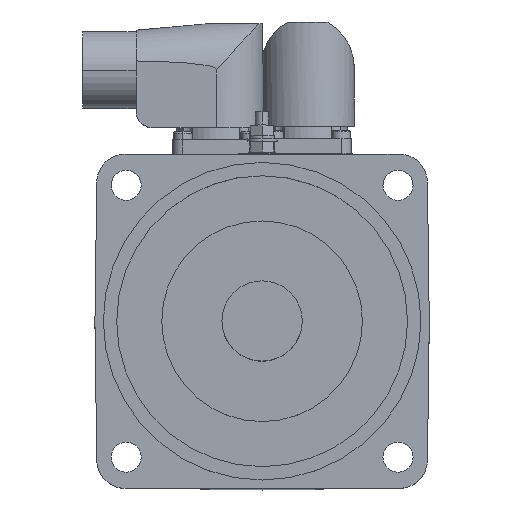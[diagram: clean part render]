
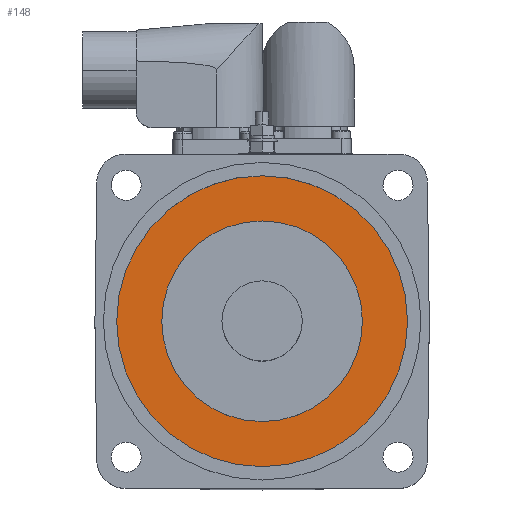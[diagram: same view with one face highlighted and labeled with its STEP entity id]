
A CAD part, top view. The second image highlights one B-rep face of the part: STEP entity #148.
In plain terms, the highlighted planar face has unit normal (0, 0, 1).
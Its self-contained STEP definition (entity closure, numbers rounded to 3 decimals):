
#148 = ADVANCED_FACE ( 'NONE', ( #7662, #7667 ), #5026, .T. ) ;
#856 = ORIENTED_EDGE ( 'NONE', *, *, #3601, .T. ) ;
#857 = ORIENTED_EDGE ( 'NONE', *, *, #3433, .T. ) ;
#858 = ORIENTED_EDGE ( 'NONE', *, *, #3437, .F. ) ;
#859 = ORIENTED_EDGE ( 'NONE', *, *, #3595, .F. ) ;
#1128 = EDGE_LOOP ( 'NONE', ( #856, #857 ) ) ;
#1132 = EDGE_LOOP ( 'NONE', ( #858, #859 ) ) ;
#3433 = EDGE_CURVE ( 'NONE', #6169, #6170, #11213, .T. ) ;
#3437 = EDGE_CURVE ( 'NONE', #6173, #6174, #11218, .T. ) ;
#3595 = EDGE_CURVE ( 'NONE', #6174, #6173, #11466, .T. ) ;
#3601 = EDGE_CURVE ( 'NONE', #6170, #6169, #11475, .T. ) ;
#3766 = AXIS2_PLACEMENT_3D ( 'NONE', #5025, #5027, #5028 ) ;
#4181 = AXIS2_PLACEMENT_3D ( 'NONE', #10006, #10007, #10008 ) ;
#4184 = AXIS2_PLACEMENT_3D ( 'NONE', #9995, #9997, #9998 ) ;
#4253 = AXIS2_PLACEMENT_3D ( 'NONE', #10384, #10392, #10393 ) ;
#4257 = AXIS2_PLACEMENT_3D ( 'NONE', #10401, #10408, #10409 ) ;
#5025 = CARTESIAN_POINT ( 'NONE',  ( 0., 43.5, 8. ) ) ;
#5026 = PLANE ( 'NONE',  #3766 ) ;
#5027 = DIRECTION ( 'NONE',  ( 0., 0., 1. ) ) ;
#5028 = DIRECTION ( 'NONE',  ( 1., 0., 0. ) ) ;
#6169 = VERTEX_POINT ( 'NONE', #10964 ) ;
#6170 = VERTEX_POINT ( 'NONE', #10965 ) ;
#6173 = VERTEX_POINT ( 'NONE', #10968 ) ;
#6174 = VERTEX_POINT ( 'NONE', #10969 ) ;
#7662 = FACE_OUTER_BOUND ( 'NONE', #1128, .T. ) ;
#7667 = FACE_BOUND ( 'NONE', #1132, .T. ) ;
#9995 = CARTESIAN_POINT ( 'NONE',  ( 0., 0., 8. ) ) ;
#9997 = DIRECTION ( 'NONE',  ( 0., 0., 1. ) ) ;
#9998 = DIRECTION ( 'NONE',  ( 1., 0., 0. ) ) ;
#10006 = CARTESIAN_POINT ( 'NONE',  ( 0., 0., 8. ) ) ;
#10007 = DIRECTION ( 'NONE',  ( 0., 0., 1. ) ) ;
#10008 = DIRECTION ( 'NONE',  ( 1., 0., 0. ) ) ;
#10384 = CARTESIAN_POINT ( 'NONE',  ( 0., 0., 8. ) ) ;
#10392 = DIRECTION ( 'NONE',  ( 0., 0., 1. ) ) ;
#10393 = DIRECTION ( 'NONE',  ( 1., 0., 0. ) ) ;
#10401 = CARTESIAN_POINT ( 'NONE',  ( 0., 0., 8. ) ) ;
#10408 = DIRECTION ( 'NONE',  ( 0., 0., 1. ) ) ;
#10409 = DIRECTION ( 'NONE',  ( 1., 0., 0. ) ) ;
#10964 = CARTESIAN_POINT ( 'NONE',  ( -43.5, 0., 8. ) ) ;
#10965 = CARTESIAN_POINT ( 'NONE',  ( 43.5, 0., 8. ) ) ;
#10968 = CARTESIAN_POINT ( 'NONE',  ( 30., 0., 8. ) ) ;
#10969 = CARTESIAN_POINT ( 'NONE',  ( -30., 0., 8. ) ) ;
#11213 = CIRCLE ( 'NONE', #4184, 43.5 ) ;
#11218 = CIRCLE ( 'NONE', #4181, 30. ) ;
#11466 = CIRCLE ( 'NONE', #4253, 30. ) ;
#11475 = CIRCLE ( 'NONE', #4257, 43.5 ) ;
